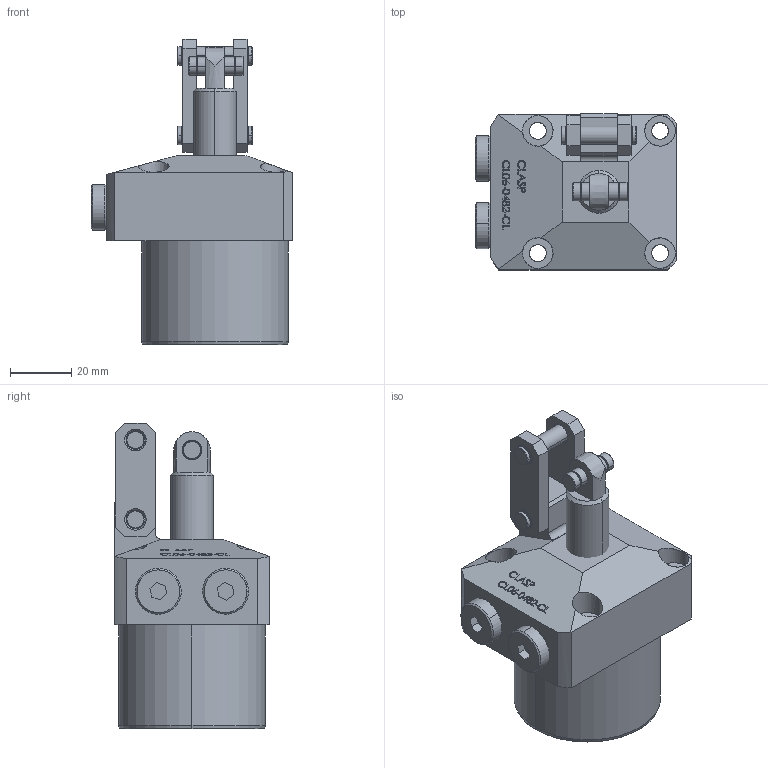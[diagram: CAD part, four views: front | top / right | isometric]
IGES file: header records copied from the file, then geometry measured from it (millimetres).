
Start section: SolidWorks IGES file using analytic representation for surfaces
Global section: file name: D:\karuppas\Clasp\3D model\Link clamp cylinder\CL06-0482-CL\CLO6-0482 cl.IGS; native system: SolidWorks 2017; preprocessor: SolidWorks 2017; author: pc; date: 220705.225505; units: millimetre
Bounding box: 66 x 51 x 100 mm (x, y, z)
Surface area: 29128.7 mm2 (no closed solid volume)
Topology: 0 solids, 0 shells, 424 faces, 6275 edges, 6271 vertices
Faces by surface type: bspline 288, revolution 136
